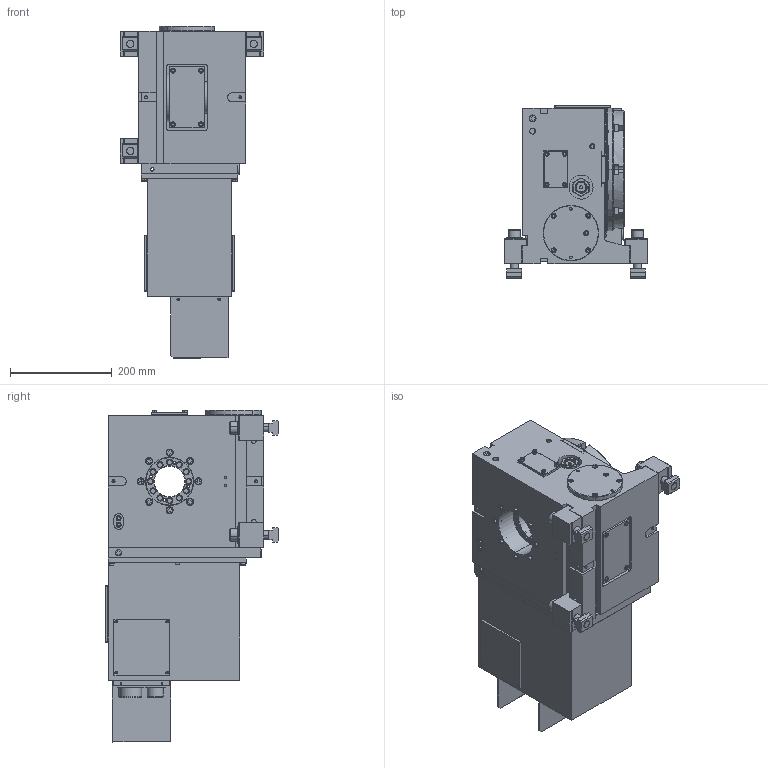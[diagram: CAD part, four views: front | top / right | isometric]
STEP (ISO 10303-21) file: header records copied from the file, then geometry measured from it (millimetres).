
FILE_DESCRIPTION (( 'STEP AP203' ), '1' );
FILE_NAME ('15091557-MDH233R-65.STEP', '2020-11-25T22:43:32', ( '' ), ( '' ), 'SwSTEP 2.0', 'SolidWorks 2019', '' );
FILE_SCHEMA (( 'CONFIG_CONTROL_DESIGN' ));
Length unit declared in the file: millimetre
Products named in the file (1): 15091557-MDH233R-65
Bounding box: 282 x 338.9 x 651 mm (x, y, z)
Surface area: 1064693.2 mm2 (no closed solid volume)
Topology: 0 solids, 116 shells, 1266 faces, 3927 edges, 2768 vertices
Faces by surface type: plane 707, cylinder 363, cone 188, torus 8
Entity records: 44278 total; most frequent: CARTESIAN_POINT 8329, DIRECTION 7858, ORIENTED_EDGE 6401, EDGE_CURVE 3927, VERTEX_POINT 2768, AXIS2_PLACEMENT_3D 2723, VECTOR 2412, LINE 2412
